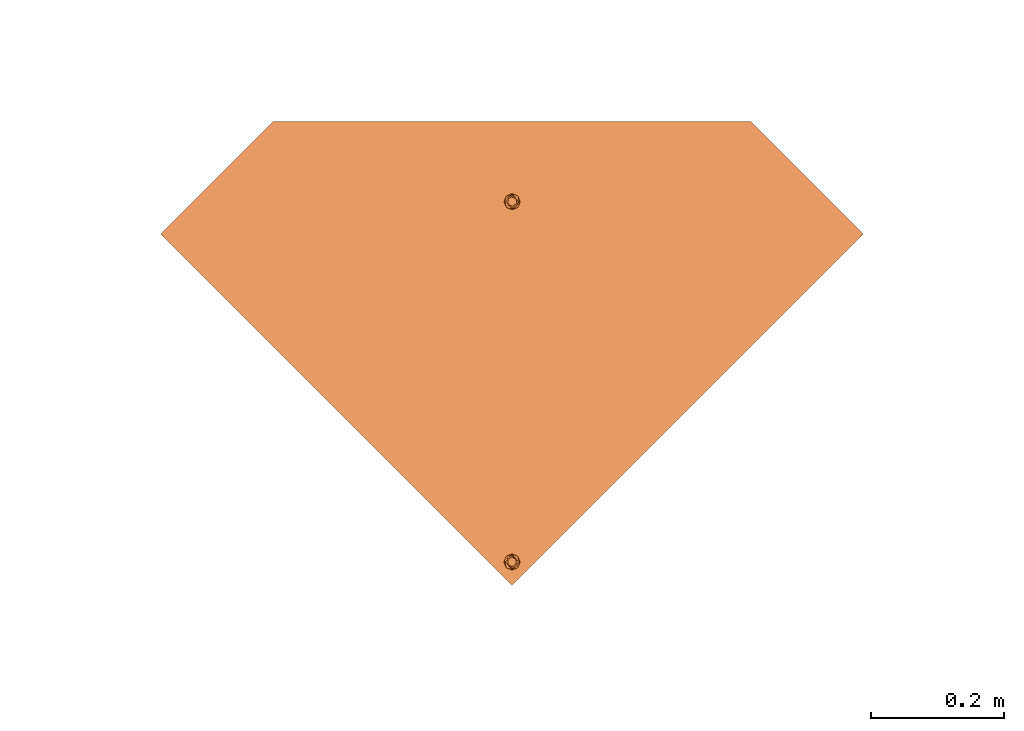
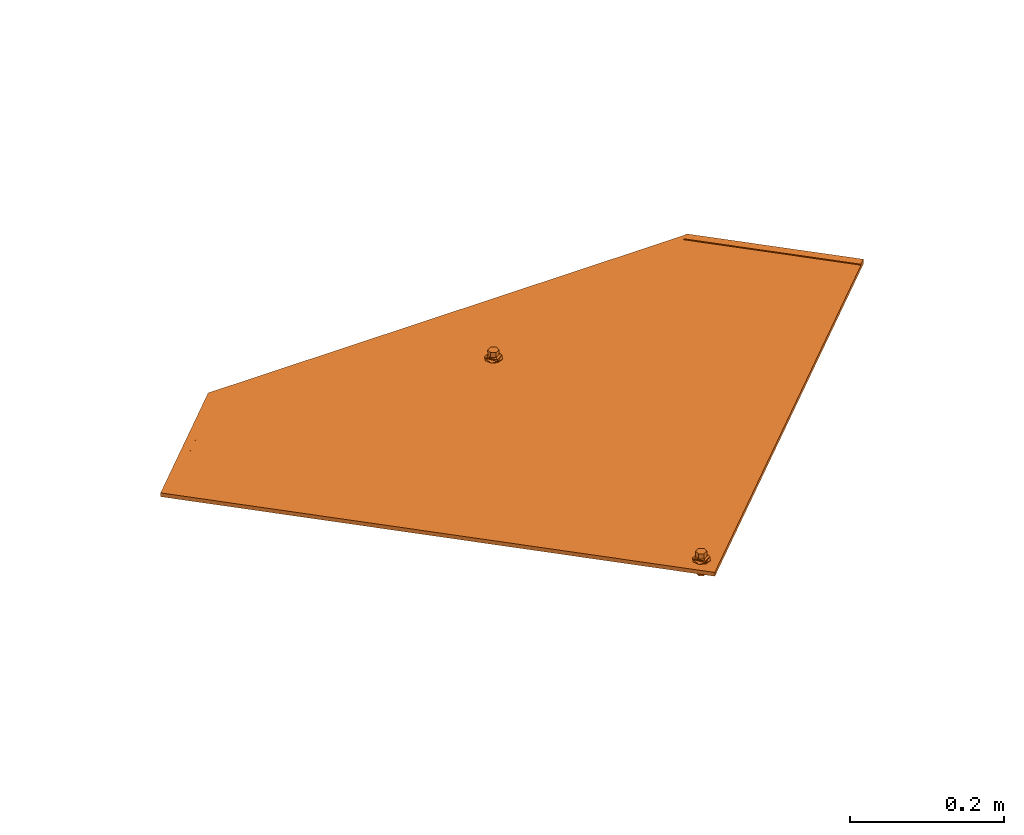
# One storey, part 108 of 151: 1 proxy.
"""IFC2X3 building model written with IfcOpenShell, lengths in millimetres."""

from ifc_helpers import new_model, entity, si_unit, converted_unit, derived_unit, direction, frame, origin, place, context, subcontext, project, spatial, faceted_brep, source, transform, mapped, material, material_list, type_object, type_shapes, element, save


model = new_model("IFC2X3")

# Units and contexts
model_context = context("Model", 3, precision=0.01, world=origin(), true_north=direction((6.12303176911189e-17, 1.0)))
body_context = subcontext(model_context, "Body", "Model", "MODEL_VIEW")
ifc_project = project(units=[si_unit("LENGTHUNIT", "METRE", prefix="MILLI"), si_unit("AREAUNIT", "SQUARE_METRE"), si_unit("VOLUMEUNIT", "CUBIC_METRE"), converted_unit("PLANEANGLEUNIT", "DEGREE", entity("IfcRatioMeasure", 0.0174532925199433), si_unit("PLANEANGLEUNIT", "RADIAN"), dimensions=[0, 0, 0, 0, 0, 0, 0]), si_unit("MASSUNIT", "GRAM", prefix="KILO"), derived_unit("MASSDENSITYUNIT", [(si_unit("MASSUNIT", "GRAM", prefix="KILO"), 1), (si_unit("LENGTHUNIT", "METRE"), -3)]), si_unit("TIMEUNIT", "SECOND"), si_unit("FREQUENCYUNIT", "HERTZ"), si_unit("THERMODYNAMICTEMPERATUREUNIT", "DEGREE_CELSIUS"), derived_unit("THERMALTRANSMITTANCEUNIT", [(si_unit("MASSUNIT", "GRAM", prefix="KILO"), 1), (si_unit("THERMODYNAMICTEMPERATUREUNIT", "KELVIN"), -1), (si_unit("TIMEUNIT", "SECOND"), -3)]), derived_unit("VOLUMETRICFLOWRATEUNIT", [(si_unit("LENGTHUNIT", "METRE"), 3), (si_unit("TIMEUNIT", "SECOND"), -1)]), si_unit("ELECTRICCURRENTUNIT", "AMPERE"), si_unit("ELECTRICVOLTAGEUNIT", "VOLT"), si_unit("POWERUNIT", "WATT"), si_unit("FORCEUNIT", "NEWTON", prefix="KILO"), si_unit("ILLUMINANCEUNIT", "LUX"), si_unit("LUMINOUSFLUXUNIT", "LUMEN"), si_unit("LUMINOUSINTENSITYUNIT", "CANDELA"), derived_unit("USERDEFINED", [(si_unit("MASSUNIT", "GRAM", prefix="KILO"), -1), (si_unit("LENGTHUNIT", "METRE"), -2), (si_unit("TIMEUNIT", "SECOND"), 3), (si_unit("LUMINOUSFLUXUNIT", "LUMEN"), 1)]), derived_unit("LINEARVELOCITYUNIT", [(si_unit("LENGTHUNIT", "METRE"), 1), (si_unit("TIMEUNIT", "SECOND"), -1)]), si_unit("PRESSUREUNIT", "PASCAL"), derived_unit("USERDEFINED", [(si_unit("LENGTHUNIT", "METRE"), -2), (si_unit("MASSUNIT", "GRAM", prefix="KILO"), 1), (si_unit("TIMEUNIT", "SECOND"), -2)])], contexts=[model_context])

# Site, building, storey
site_placement = place(None, origin())
site = spatial("IfcSite", under=ifc_project, at=site_placement, Name="Default", CompositionType="ELEMENT")
building_placement = place(site_placement, origin())
building = spatial("IfcBuilding", under=site, at=building_placement, CompositionType="ELEMENT")
storey_placement = place(building_placement, origin())
storey = spatial("IfcBuildingStorey", under=building, at=storey_placement, Name="Level 1", CompositionType="ELEMENT", Elevation=0.0)

# Proxy
ifc_material_1 = material(Name="Rubber - Sunstyle - Black")
ifc_material_2 = material(Name="Glass - Sunstyle - Tainted Black")
ifc_material_list_1 = material_list([ifc_material_1, ifc_material_2])
ifc_material_list_2 = material_list([ifc_material_1, ifc_material_2])
building_element_proxy_type = type_object("IfcBuildingElementProxyType", Name="Shingle Top - Black", PredefinedType="NOTDEFINED", material=ifc_material_list_2)
shared_shape = source(origin(), body_context, "Body", "Brep", [
    faceted_brep([(-518.396436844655, -96.9865733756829, 16.4476231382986), (-518.396436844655, -96.9614556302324, 17.9474128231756), (-526.881123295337, -88.4767691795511, 17.8053154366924), (-526.881123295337, -88.5018869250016, 16.3055257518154), (-376.996804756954, 61.3404039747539, 13.7960402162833), (-368.512118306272, 52.8557175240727, 13.9381376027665), (-376.996804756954, 61.3655217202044, 15.2958299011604), (-368.512118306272, 52.8808352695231, 15.4379272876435)], [[[0, 1, 2, 3]], [[0, 3, 4, 5]], [[3, 2, 6, 4]], [[2, 1, 7, 6]], [[1, 0, 5, 7]], [[5, 4, 6, 7]]]),
    faceted_brep([(0.166366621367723, -33.6374645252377, -4.47296585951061), (-5.6078362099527, -36.9707346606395, -4.4171418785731), (-5.60783620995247, -36.6024255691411, 17.5747274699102), (0.166366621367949, -33.2691554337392, 17.5189034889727), (-5.60783620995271, -43.6372749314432, -4.30549391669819), (-5.60783620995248, -43.2689658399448, 17.6863754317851), (0.166366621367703, -46.9705450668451, -4.24966993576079), (0.166366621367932, -46.6022359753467, 17.7421994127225), (5.94056945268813, -43.6372749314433, -4.30549391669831), (5.94056945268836, -43.2689658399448, 17.686375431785), (5.94056945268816, -36.9707346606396, -4.41714187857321), (5.94056945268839, -36.6024255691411, 17.5747274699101), (-8.43733754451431, -48.5381935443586, 17.774621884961), (0.16636662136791, -52.1014648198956, 17.8342978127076), (-12.0011084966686, -39.9356957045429, 17.6305514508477), (-8.43733754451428, -31.3331978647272, 17.4864810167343), (0.166366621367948, -27.7699265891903, 17.4268050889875), (8.77007078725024, -31.3331978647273, 17.4864810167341), (12.3338417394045, -39.935695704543, 17.6305514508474), (8.77007078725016, -48.5381935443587, 17.7746218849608), (-11.1578780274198, -37.6406185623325, 19.9433933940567), (-9.59010793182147, -39.8646808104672, 21.8708760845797), (0.166366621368, -32.5516055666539, 22.5035764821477), (0.166366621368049, -31.3111079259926, 21.9232298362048), (0.166366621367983, -29.1535570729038, 20.9138547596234), (0.166366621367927, -51.5454208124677, 19.1093557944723), (0.166366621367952, -50.6018442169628, 21.273060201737), (0.166366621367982, -47.1524685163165, 22.7481046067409), (0.166366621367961, -28.2829626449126, 18.7197675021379), (-6.15687907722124, -43.5022527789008, 22.6869725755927), (-6.15687907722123, -36.2018213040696, 22.5647085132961), (11.4906112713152, -42.1520387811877, 20.0189484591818), (10.0152467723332, -40.9390872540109, 21.7920079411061), (6.48961231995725, -36.2018213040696, 22.564708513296), (6.48961231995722, -43.5022527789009, 22.6869725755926), (-6.15687907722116, -43.3682243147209, 30.68986075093), (0.166366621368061, -47.0184400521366, 30.7509927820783), (0.166366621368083, -39.7180085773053, 30.6287287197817), (-6.15687907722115, -36.0677928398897, 30.5675966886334), (6.48961231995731, -43.368224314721, 30.6898607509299), (6.48961231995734, -36.0677928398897, 30.5675966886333), (0.166366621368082, -32.417577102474, 30.5064646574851), (0.166366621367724, -40.3040047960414, -4.36131789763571)], [[[0, 1, 2, 3]], [[1, 4, 5, 2]], [[4, 6, 7, 5]], [[6, 8, 9, 7]], [[8, 10, 11, 9]], [[10, 0, 3, 11]], [[12, 7, 13]], [[7, 12, 5]], [[14, 5, 12]], [[5, 14, 2]], [[15, 2, 14]], [[3, 2, 15]], [[15, 16, 3]], [[16, 17, 3]], [[11, 3, 17]], [[11, 17, 18]], [[9, 11, 18]], [[18, 19, 9]], [[7, 9, 19]], [[19, 13, 7]], [[20, 14, 12]], [[21, 22, 23, 24]], [[24, 20, 21]], [[25, 20, 12]], [[26, 27, 21]], [[15, 14, 20]], [[12, 13, 25]], [[20, 28, 15]], [[28, 20, 24]], [[21, 27, 29]], [[21, 29, 30]], [[26, 21, 20]], [[20, 25, 26]], [[15, 28, 16]], [[21, 30, 22]], [[31, 18, 17]], [[28, 31, 17]], [[32, 27, 26]], [[26, 31, 32]], [[26, 25, 31]], [[25, 19, 31]], [[17, 16, 28]], [[31, 19, 18]], [[24, 31, 28]], [[33, 34, 32]], [[23, 22, 33]], [[24, 32, 31]], [[27, 32, 34]], [[32, 23, 33]], [[19, 25, 13]], [[32, 24, 23]], [[35, 36, 37]], [[37, 38, 35]], [[36, 39, 37]], [[40, 37, 39]], [[37, 40, 41]], [[37, 41, 38]], [[42, 6, 4]], [[4, 1, 42]], [[1, 0, 42]], [[42, 8, 6]], [[0, 10, 42]], [[8, 42, 10]], [[22, 30, 38, 41]], [[30, 29, 35, 38]], [[29, 27, 36, 35]], [[27, 34, 39, 36]], [[34, 33, 40, 39]], [[33, 22, 41, 40]]]),
    faceted_brep([(0.0, -573.927138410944, 4.00636906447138), (-5.77420283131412, -577.260408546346, 4.0621930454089), (-5.77420283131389, -576.892099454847, 26.0540623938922), (0.0, -573.558829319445, 25.9982384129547), (-5.77420283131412, -583.926948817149, 4.1738410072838), (-5.7742028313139, -583.558639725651, 26.1657103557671), (0.0, -587.260218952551, 4.2296649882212), (0.0, -586.891909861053, 26.2215343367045), (5.77420283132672, -583.926948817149, 4.17384100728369), (5.77420283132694, -583.558639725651, 26.165710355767), (5.77420283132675, -577.260408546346, 4.06219304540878), (5.77420283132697, -576.892099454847, 26.0540623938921), (-8.60370416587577, -588.827867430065, 26.253956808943), (0.0, -592.391138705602, 26.3136327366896), (-12.1674751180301, -580.225369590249, 26.1098863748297), (-8.60370416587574, -571.622871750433, 25.9658159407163), (0.0, -568.059600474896, 25.9061400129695), (8.60370416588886, -571.622871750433, 25.9658159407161), (12.1674751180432, -580.225369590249, 26.1098863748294), (8.60370416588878, -588.827867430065, 26.2539568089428), (-11.3242446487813, -577.930292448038, 28.4227283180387), (-9.75647455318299, -580.154354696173, 30.3502110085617), (0.0, -572.84127945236, 30.9829114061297), (0.0, -571.600781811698, 30.4025647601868), (0.0, -569.44323095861, 29.3931896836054), (0.0, -591.835094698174, 27.5886907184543), (0.0, -590.891518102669, 29.752395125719), (0.0, -587.442142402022, 31.227439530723), (0.0, -568.572636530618, 27.1991024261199), (-6.32324569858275, -583.791926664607, 31.1663074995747), (-6.32324569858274, -576.491495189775, 31.0440434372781), (11.3242446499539, -582.441712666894, 28.4982833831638), (9.84888015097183, -581.228761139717, 30.2713428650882), (6.32324569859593, -576.491495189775, 31.044043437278), (6.32324569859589, -583.791926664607, 31.1663074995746), (-6.32324569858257, -583.657898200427, 39.169195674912), (0.0, -587.308113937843, 39.2303277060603), (0.0, -580.007682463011, 39.1080636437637), (-6.32324569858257, -576.357466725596, 39.0469316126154), (6.32324569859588, -583.657898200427, 39.1691956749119), (6.32324569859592, -576.357466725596, 39.0469316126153), (0.0, -572.70725098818, 38.9857995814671), (0.0, -580.593678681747, 4.11801702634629)], [[[0, 1, 2, 3]], [[1, 4, 5, 2]], [[4, 6, 7, 5]], [[6, 8, 9, 7]], [[8, 10, 11, 9]], [[10, 0, 3, 11]], [[12, 7, 13]], [[7, 12, 5]], [[14, 5, 12]], [[5, 14, 2]], [[15, 2, 14]], [[3, 2, 15]], [[15, 16, 3]], [[16, 17, 3]], [[11, 3, 17]], [[11, 17, 18]], [[9, 11, 18]], [[18, 19, 9]], [[7, 9, 19]], [[19, 13, 7]], [[20, 14, 12]], [[21, 22, 23, 24]], [[24, 20, 21]], [[25, 20, 12]], [[26, 27, 21]], [[15, 14, 20]], [[12, 13, 25]], [[20, 28, 15]], [[28, 20, 24]], [[21, 27, 29]], [[21, 29, 30]], [[26, 21, 20]], [[20, 25, 26]], [[15, 28, 16]], [[21, 30, 22]], [[31, 18, 17]], [[28, 31, 17]], [[32, 27, 26]], [[26, 31, 32]], [[26, 25, 31]], [[25, 19, 31]], [[17, 16, 28]], [[31, 19, 18]], [[24, 31, 28]], [[33, 34, 32]], [[23, 22, 33]], [[24, 32, 31]], [[27, 32, 34]], [[32, 23, 33]], [[19, 25, 13]], [[32, 24, 23]], [[35, 36, 37]], [[37, 38, 35]], [[36, 39, 37]], [[40, 37, 39]], [[37, 40, 41]], [[37, 41, 38]], [[42, 6, 4]], [[4, 1, 42]], [[1, 0, 42]], [[42, 8, 6]], [[0, 10, 42]], [[8, 42, 10]], [[22, 30, 38, 41]], [[30, 29, 35, 38]], [[29, 27, 36, 35]], [[27, 34, 39, 36]], [[34, 33, 40, 39]], [[33, 22, 41, 40]]]),
    faceted_brep([(518.482751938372, -96.8754983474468, 17.9260478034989), (526.967438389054, -88.3908118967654, 17.7839504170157), (526.967438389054, -88.3656941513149, 19.2837401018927), (518.482751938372, -96.8503806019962, 19.4258374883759), (349.749400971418, 71.8105397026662, 15.1009763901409), (358.234087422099, 80.2952261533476, 14.9588790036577), (358.234087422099, 80.3203438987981, 16.4586686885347), (349.749400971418, 71.8356574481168, 16.6007660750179)], [[[0, 1, 2, 3]], [[1, 0, 4, 5]], [[2, 1, 5, 6]], [[3, 2, 6, 7]], [[0, 3, 7, 4]], [[4, 7, 6, 5]]]),
    faceted_brep([(358.234087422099, 80.2952261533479, 14.9588790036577), (6.94661128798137, -35.8890860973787, 16.9046771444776), (7.74581466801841, -37.8182632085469, 16.9369860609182), (5.67526230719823, -34.2324641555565, 16.8769328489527), (8.01840805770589, -39.8885252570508, 16.9716577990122), (7.74581466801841, -41.9587873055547, 17.0063295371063), (6.94661128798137, -43.8879644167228, 17.0386384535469), (526.967438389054, -88.3908118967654, 17.7839504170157), (4.01840805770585, -32.9612934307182, 16.855643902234), (2.08896041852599, -32.1622021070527, 16.8422611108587), (0.0184080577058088, -31.8896469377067, 16.8376964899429), (-358.233442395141, 80.2952261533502, 14.9588790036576), (-2.05214430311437, -32.1622021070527, 16.8422611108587), (-3.98159194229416, -32.9612934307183, 16.855643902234), (-5.63844619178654, -34.2324641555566, 16.8769328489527), (-6.90979517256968, -35.8890860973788, 16.9046771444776), (-7.70899855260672, -37.8182632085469, 16.9369860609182), (-7.98159194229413, -39.8885252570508, 16.9716577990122), (-7.70899855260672, -41.9587873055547, 17.0063295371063), (-6.90979517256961, -43.8879644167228, 17.0386384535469), (-526.966793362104, -88.390811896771, 17.7839504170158), (-5.63844619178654, -45.544586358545, 17.0663827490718), (-5.6568542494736, -574.226981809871, 25.9204974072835), (-6.92820323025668, -575.883603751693, 25.9482417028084), (-7.72740661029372, -577.812780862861, 25.980550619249), (-8.0, -579.883042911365, 26.015222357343), (-7.72740661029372, -581.953304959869, 26.049894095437), (0.000322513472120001, -615.210165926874, 26.6068637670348), (7.72740661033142, -581.953304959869, 26.049894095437), (6.92820323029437, -583.882482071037, 26.0822030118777), (5.65685424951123, -585.53910401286, 26.1099473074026), (4.0, -586.810274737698, 26.1312362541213), (2.070552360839, -587.609366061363, 26.1446190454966), (0.0, -587.881921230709, 26.1491836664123), (-2.0705523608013, -587.609366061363, 26.1446190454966), (-4.0, -586.810274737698, 26.1312362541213), (-5.65685424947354, -585.53910401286, 26.1099473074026), (-6.92820323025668, -583.882482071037, 26.0822030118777), (-4.0, -572.955811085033, 25.8992084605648), (-3.98159194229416, -46.8157570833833, 17.0876716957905), (-2.07055236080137, -572.156719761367, 25.8858256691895), (-2.05214430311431, -47.614848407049, 17.1010544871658), (0.0, -571.884164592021, 25.8812610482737), (0.0184080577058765, -47.8874035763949, 17.1056191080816), (2.07055236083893, -572.156719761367, 25.8858256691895), (2.08896041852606, -47.6148484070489, 17.1010544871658), (4.0, -572.955811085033, 25.8992084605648), (4.01840805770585, -46.8157570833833, 17.0876716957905), (5.65685424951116, -574.226981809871, 25.9204974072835), (5.67526230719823, -45.544586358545, 17.0663827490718), (6.92820323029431, -575.883603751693, 25.9482417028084), (7.72740661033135, -577.812780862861, 25.980550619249), (8.0, -579.883042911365, 26.015222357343), (-358.233442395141, 80.1947551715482, 8.9597202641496), (-6.90979517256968, -35.9895570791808, 10.9055184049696), (-7.70899855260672, -37.9187341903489, 10.9378273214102), (-5.63844619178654, -34.3329351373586, 10.8777741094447), (-7.98159194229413, -39.9889962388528, 10.9724990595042), (-7.70899855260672, -42.0592582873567, 11.0071707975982), (-6.90979517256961, -43.9884353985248, 11.0394797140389), (-526.966793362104, -88.4912828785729, 11.7847916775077), (-3.98159194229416, -33.0617644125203, 10.856485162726), (-2.05214430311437, -32.2626730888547, 10.8431023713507), (0.0184080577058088, -31.9901179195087, 10.8385377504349), (358.234087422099, 80.1947551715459, 8.95972026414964), (2.08896041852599, -32.2626730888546, 10.8431023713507), (4.01840805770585, -33.0617644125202, 10.856485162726), (5.67526230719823, -34.3329351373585, 10.8777741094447), (6.94661128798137, -35.9895570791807, 10.9055184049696), (7.74581466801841, -37.9187341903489, 10.9378273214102), (8.01840805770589, -39.9889962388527, 10.9724990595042), (7.74581466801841, -42.0592582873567, 11.0071707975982), (6.94661128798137, -43.9884353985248, 11.0394797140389), (526.967438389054, -88.4912828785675, 11.7847916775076), (5.67526230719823, -45.645057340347, 11.0672240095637), (5.65685424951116, -574.327452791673, 19.9213386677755), (6.92820323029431, -575.984074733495, 19.9490829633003), (7.72740661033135, -577.913251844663, 19.981391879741), (8.0, -579.983513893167, 20.016063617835), (7.72740661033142, -582.053775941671, 20.050735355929), (0.000322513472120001, -615.310636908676, 20.6077050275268), (-7.72740661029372, -582.053775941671, 20.050735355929), (-6.92820323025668, -583.982953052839, 20.0830442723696), (-5.65685424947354, -585.639574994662, 20.1107885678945), (-4.0, -586.9107457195, 20.1320775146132), (-2.0705523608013, -587.709837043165, 20.1454603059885), (0.0, -587.982392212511, 20.1500249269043), (2.070552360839, -587.709837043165, 20.1454603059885), (4.0, -586.9107457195, 20.1320775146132), (5.65685424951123, -585.639574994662, 20.1107885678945), (6.92820323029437, -583.982953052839, 20.0830442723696), (4.01840805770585, -46.9162280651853, 11.0885129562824), (4.0, -573.056282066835, 19.9000497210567), (2.08896041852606, -47.7153193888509, 11.1018957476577), (2.07055236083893, -572.257190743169, 19.8866669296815), (0.0184080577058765, -47.9878745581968, 11.1064603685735), (0.0, -571.984635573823, 19.8821023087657), (-2.05214430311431, -47.7153193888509, 11.1018957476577), (-2.07055236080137, -572.257190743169, 19.8866669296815), (-3.98159194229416, -46.9162280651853, 11.0885129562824), (-4.0, -573.056282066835, 19.9000497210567), (-5.63844619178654, -45.645057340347, 11.0672240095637), (-5.6568542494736, -574.327452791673, 19.9213386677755), (-6.92820323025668, -575.984074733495, 19.9490829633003), (-7.72740661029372, -577.913251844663, 19.981391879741), (-8.0, -579.983513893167, 20.016063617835)], [[[0, 1, 2]], [[1, 0, 3]], [[0, 2, 4]], [[4, 5, 0]], [[5, 6, 0]], [[7, 0, 6]], [[8, 3, 0]], [[9, 8, 0]], [[10, 9, 0]], [[0, 11, 10]], [[12, 10, 11]], [[13, 12, 11]], [[14, 13, 11]], [[11, 15, 14]], [[15, 11, 16]], [[16, 11, 17]], [[11, 18, 17]], [[18, 11, 19]], [[11, 20, 19]], [[19, 20, 21]], [[20, 22, 21]], [[23, 22, 20]], [[24, 23, 20]], [[24, 20, 25]], [[26, 25, 20]], [[27, 26, 20]], [[7, 28, 27]], [[29, 27, 28]], [[27, 29, 30]], [[30, 31, 27]], [[31, 32, 27]], [[27, 32, 33]], [[27, 33, 34]], [[34, 35, 27]], [[27, 35, 36]], [[36, 37, 27]], [[37, 26, 27]], [[38, 21, 22]], [[38, 39, 21]], [[38, 40, 39]], [[40, 41, 39]], [[40, 42, 41]], [[41, 42, 43]], [[44, 43, 42]], [[44, 45, 43]], [[45, 44, 46]], [[46, 47, 45]], [[46, 48, 47]], [[48, 49, 47]], [[50, 7, 48]], [[48, 7, 49]], [[7, 50, 51]], [[7, 51, 52]], [[52, 28, 7]], [[7, 6, 49]], [[53, 54, 55]], [[54, 53, 56]], [[53, 55, 57]], [[58, 53, 57]], [[59, 53, 58]], [[60, 53, 59]], [[61, 56, 53]], [[62, 61, 53]], [[53, 63, 62]], [[63, 53, 64]], [[65, 63, 64]], [[66, 65, 64]], [[64, 67, 66]], [[67, 64, 68]], [[68, 64, 69]], [[70, 69, 64]], [[71, 70, 64]], [[72, 71, 64]], [[72, 64, 73]], [[72, 73, 74]], [[74, 73, 75]], [[73, 76, 75]], [[76, 73, 77]], [[77, 73, 78]], [[79, 78, 73]], [[79, 73, 80]], [[60, 81, 80]], [[80, 81, 82]], [[80, 82, 83]], [[83, 84, 80]], [[84, 85, 80]], [[85, 86, 80]], [[80, 86, 87]], [[80, 87, 88]], [[80, 88, 89]], [[79, 80, 90]], [[80, 89, 90]], [[75, 91, 74]], [[75, 92, 91]], [[92, 93, 91]], [[93, 92, 94]], [[93, 94, 95]], [[96, 95, 94]], [[97, 95, 96]], [[96, 98, 97]], [[98, 99, 97]], [[98, 100, 99]], [[100, 101, 99]], [[100, 102, 101]], [[60, 101, 102]], [[103, 60, 102]], [[103, 104, 60]], [[104, 105, 60]], [[105, 81, 60]], [[59, 101, 60]], [[27, 20, 60, 80]], [[7, 27, 80, 73]], [[0, 7, 73, 64]], [[25, 105, 104, 24]], [[24, 104, 103, 23]], [[38, 22, 102, 100]], [[102, 22, 23, 103]], [[40, 38, 100, 98]], [[40, 98, 96, 42]], [[42, 96, 94, 44]], [[44, 94, 92, 46]], [[50, 48, 75, 76]], [[75, 48, 46, 92]], [[51, 50, 76, 77]], [[51, 77, 78, 52]], [[52, 78, 79, 28]], [[28, 79, 90, 29]], [[31, 30, 89, 88]], [[29, 90, 89, 30]], [[87, 32, 31, 88]], [[32, 87, 86, 33]], [[34, 33, 86, 85]], [[34, 85, 84, 35]], [[37, 36, 83, 82]], [[35, 84, 83, 36]], [[37, 82, 81, 26]], [[26, 81, 105, 25]], [[17, 57, 55, 16]], [[16, 55, 54, 15]], [[13, 14, 56, 61]], [[56, 14, 15, 54]], [[12, 13, 61, 62]], [[12, 62, 63, 10]], [[10, 63, 65, 9]], [[9, 65, 66, 8]], [[1, 3, 67, 68]], [[67, 3, 8, 66]], [[2, 1, 68, 69]], [[2, 69, 70, 4]], [[4, 70, 71, 5]], [[5, 71, 72, 6]], [[47, 49, 74, 91]], [[74, 49, 6, 72]], [[45, 47, 91, 93]], [[45, 93, 95, 43]], [[43, 95, 97, 41]], [[41, 97, 99, 39]], [[19, 21, 101, 59]], [[101, 21, 39, 99]], [[18, 19, 59, 58]], [[18, 58, 57, 17]], [[11, 0, 64, 53]], [[20, 11, 53, 60]]]),
])
type_shapes(building_element_proxy_type, [shared_shape])
proxy_placement = place(storey_placement, frame((5499.60847418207, 12373.1387530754, 0.0)))
element("IfcBuildingElementProxy", 1, at=proxy_placement, inside=storey, type_object=building_element_proxy_type, material=ifc_material_list_1, Name="Roofing_Panels_SunStyle_Tile_Shingle-Top:Shingle Top - Black", ObjectType="Roofing_Panels_SunStyle_Tile_Shingle-Top:Shingle Top - Black", context=body_context, shape_type="MappedRepresentation", body=[
    mapped(shared_shape, transform((0.0, 0.0, 0.0), scale=1.0)),
])

save(model, "model.ifc")
